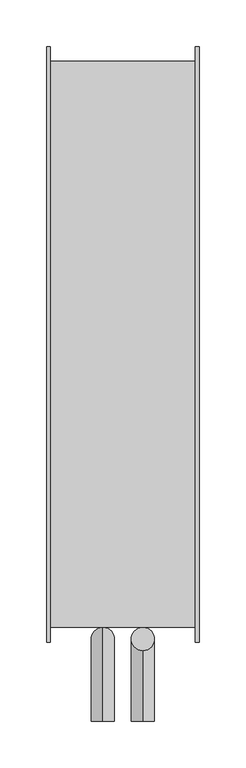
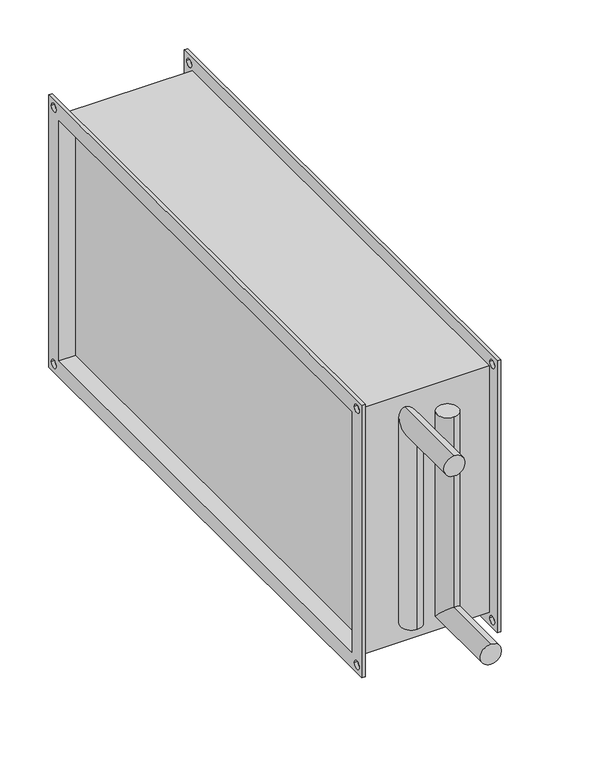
"""IFC4 building model written with IfcOpenShell, lengths in millimetres: proxy geometry, СВ_ВоздухонагревательВодяной_КанальныйПрямоугольный_200-1000_SPH-W : SPH-W-600x300/2."""

import ifcopenshell
import ifcopenshell.guid

model = None  # the IFC model being written
_history = None  # IfcOwnerHistory: only IFC2X3 demands one
_inside = {}  # id of a spatial element -> (the spatial element, [elements in it])
_under = {}  # id of a project, library or spatial element -> (it, [spatial elements below it])
_declared = {}  # id of a project -> (the project, [libraries it declares])
_typed = {}  # id of a type object -> (the type object, [elements of that type])
_made_of = {}  # id of a material, layer set ... -> (it, [elements and type objects made of it])


def new_model(schema):
    """Start an empty IFC model of exactly this schema.

    Asked for "IFC4X3", IfcOpenShell would pick the latest addendum, in which some entities
    have other attributes; the version numbers below select the first issue.
    IFC2X3 requires an IfcOwnerHistory on every rooted entity: one is made here for all.
    """
    global model, _history
    if schema == "IFC4X3":
        model = ifcopenshell.file(schema_version=(4, 3, 0, 0))
    else:
        model = ifcopenshell.file(schema=schema)
    _inside.clear()
    _under.clear()
    _declared.clear()
    _typed.clear()
    _made_of.clear()
    _history = None
    if model.schema == "IFC2X3":
        org = make("IfcOrganization", Name="unknown")
        user = make(
            "IfcPersonAndOrganization",
            ThePerson=make("IfcPerson", FamilyName="unknown"),
            TheOrganization=org,
        )
        app = make(
            "IfcApplication",
            ApplicationDeveloper=org,
            Version="unknown",
            ApplicationFullName="unknown",
            ApplicationIdentifier="unknown",
        )
        _history = make(
            "IfcOwnerHistory",
            OwningUser=user,
            OwningApplication=app,
            ChangeAction="ADDED",
            CreationDate=0,
        )
    return model


def make(cls, **values):
    """One entity of the class cls with the attributes given. An attribute that is None is left unset."""
    return model.create_entity(
        cls, **{name: value for name, value in values.items() if value is not None}
    )


def rooted(cls, **values):
    """An entity with a GlobalId (a new one), such as an element, a storey or a relation."""
    return make(cls, GlobalId=ifcopenshell.guid.new(), OwnerHistory=_history, **values)


def si_unit(unit_type, name, prefix=None):
    """IfcSIUnit, for example si_unit("LENGTHUNIT", "METRE", prefix="MILLI")."""
    return make("IfcSIUnit", UnitType=unit_type, Prefix=prefix, Name=name)


def assignment(units):
    """IfcUnitAssignment: the units of a project."""
    return None if units is None else make("IfcUnitAssignment", Units=units)


def point(xyz):
    """IfcCartesianPoint."""
    return None if xyz is None else make("IfcCartesianPoint", Coordinates=xyz)


def direction(xyz):
    """IfcDirection."""
    return None if xyz is None else make("IfcDirection", DirectionRatios=xyz)


def frame(location, z_axis=None, x_axis=None):
    """IfcAxis2Placement3D, a coordinate frame: its origin and axes. An axis left out is left unset."""
    return make(
        "IfcAxis2Placement3D",
        Location=point(location),
        Axis=direction(z_axis),
        RefDirection=direction(x_axis),
    )


def origin():
    """The frame at (0, 0, 0) with its axes left unset."""
    return frame((0.0, 0.0, 0.0))


def place(relative_to, where):
    """IfcLocalPlacement: puts the frame where relative to a parent placement (None: the world)."""
    return make(
        "IfcLocalPlacement", PlacementRelTo=relative_to, RelativePlacement=where
    )


def context(
    kind, dimensions, precision=None, world=None, true_north=None, identifier=None
):
    """IfcGeometricRepresentationContext, for example the 3D "Model" context."""
    return make(
        "IfcGeometricRepresentationContext",
        ContextIdentifier=identifier,
        ContextType=kind,
        CoordinateSpaceDimension=dimensions,
        Precision=precision,
        WorldCoordinateSystem=world,
        TrueNorth=true_north,
    )


def project(units=None, contexts=None):
    """IfcProject with its units and contexts."""
    return rooted(
        "IfcProject",
        Name="project",
        RepresentationContexts=contexts,
        UnitsInContext=assignment(units),
    )


def spatial(cls, under=None, at=None, **own):
    """A site, building, storey or space (cls), placed at a placement, below another one or the project."""
    s = rooted(cls, ObjectPlacement=at, **own)
    if under is not None:
        _under.setdefault(under.id(), (under, []))[1].append(s)
    return s


def polyline(points):
    """IfcPolyline through the points."""
    return make("IfcPolyline", Points=[point(p) for p in points])


def circle_curve(where, radius):
    """IfcCircle in the frame where."""
    return make("IfcCircle", Position=where, Radius=radius)


def ellipse_curve(where, semi_axis1, semi_axis2):
    """IfcEllipse in the frame where."""
    return make(
        "IfcEllipse", Position=where, SemiAxis1=semi_axis1, SemiAxis2=semi_axis2
    )


def shape(context_of_items, identifier, shape_type, items):
    """IfcShapeRepresentation: the items that make up one representation, for example the "Body"."""
    return make(
        "IfcShapeRepresentation",
        ContextOfItems=context_of_items,
        RepresentationIdentifier=identifier,
        RepresentationType=shape_type,
        Items=items,
    )


def source(mapping_origin, context_of_items, identifier, shape_type, items):
    """IfcRepresentationMap: a shape defined once, which mapped items show again and again."""
    return make(
        "IfcRepresentationMap",
        MappingOrigin=mapping_origin,
        MappedRepresentation=shape(context_of_items, identifier, shape_type, items),
    )


def transform(
    local_origin,
    x_axis=None,
    y_axis=None,
    z_axis=None,
    scale=None,
    scale2=None,
    scale3=None,
    uniform=True,
):
    """IfcCartesianTransformationOperator3D, or its non-uniform kind. x_axis, y_axis, z_axis: its Axis1, 2, 3."""
    if uniform:
        return make(
            "IfcCartesianTransformationOperator3D",
            Axis1=direction(x_axis),
            Axis2=direction(y_axis),
            LocalOrigin=point(local_origin),
            Scale=scale,
            Axis3=direction(z_axis),
        )
    return make(
        "IfcCartesianTransformationOperator3DnonUniform",
        Axis1=direction(x_axis),
        Axis2=direction(y_axis),
        LocalOrigin=point(local_origin),
        Scale=scale,
        Axis3=direction(z_axis),
        Scale2=scale2,
        Scale3=scale3,
    )


def mapped(mapping_source, mapping_target):
    """IfcMappedItem: shows the shape of a source again, moved by a transform."""
    return make(
        "IfcMappedItem", MappingSource=mapping_source, MappingTarget=mapping_target
    )


def made_of(thing, what):
    """Note that an element or type object is made of a material, layer set ...; save() writes the relation."""
    if what is not None:
        _made_of.setdefault(what.id(), (what, []))[1].append(thing)
    return thing


def element(
    cls,
    number,
    at=None,
    inside=None,
    cuts=None,
    type_object=None,
    material=None,
    context=None,
    identifier="Body",
    shape_type=None,
    held_by="IfcProductDefinitionShape",
    body=None,
    shapes=None,
    **own,
):
    """One element of the class cls, such as IfcWall. Its Tag is "e" and its number.

    at: its placement. inside: the storey or other place that contains it. cuts: it is an
    opening in that element (IfcRelVoidsElement). A single representation is given by context,
    identifier, shape_type and body (its items); several are given by shapes. held_by: the class
    of the entity that holds the representations. save() writes the other relations.
    """
    e = rooted(cls, Tag="e%d" % number, ObjectPlacement=at, **own)
    if body is not None:
        shapes = [shape(context, identifier, shape_type, body)]
    if shapes is not None:
        e.Representation = make(held_by, Representations=shapes)
    if inside is not None:
        _inside.setdefault(inside.id(), (inside, []))[1].append(e)
    if cuts is not None:
        rooted(
            "IfcRelVoidsElement", RelatingBuildingElement=cuts, RelatedOpeningElement=e
        )
    if type_object is not None:
        _typed.setdefault(type_object.id(), (type_object, []))[1].append(e)
    return made_of(e, material)


def aggregate(whole, parts):
    """IfcRelAggregates: a whole, such as a stair, and the parts it consists of."""
    return rooted("IfcRelAggregates", RelatingObject=whole, RelatedObjects=parts)


def save(model, path):
    """Write the relations noted so far, then the file.

    IfcRelAggregates (storeys below a building ...), IfcRelContainedInSpatialStructure (elements
    in a storey), IfcRelDefinesByType, IfcRelAssociatesMaterial and IfcRelDeclares: one each for
    every whole, place, type object, material and project.
    """
    for whole, parts in _under.values():
        aggregate(whole, parts)
    for where, things in _inside.values():
        rooted(
            "IfcRelContainedInSpatialStructure",
            RelatedElements=things,
            RelatingStructure=where,
        )
    for kind, things in _typed.values():
        rooted("IfcRelDefinesByType", RelatedObjects=things, RelatingType=kind)
    for what, things in _made_of.values():
        rooted("IfcRelAssociatesMaterial", RelatedObjects=things, RelatingMaterial=what)
    for by, libraries in _declared.values():
        rooted("IfcRelDeclares", RelatingContext=by, RelatedDefinitions=libraries)
    model.write(path)


def plane_surface(at):
    """IfcPlane: the flat surface through the origin of the frame at, square to its z axis."""
    return make("IfcPlane", Position=at)


def cylinder_surface(at, radius):
    """IfcCylindricalSurface: all points at the distance radius from the z axis of the frame at."""
    return make("IfcCylindricalSurface", Position=at, Radius=radius)


def revolved_surface(curve, axis_point, axis_direction):
    """IfcSurfaceOfRevolution: the curve turned about the line through axis_point along axis_direction."""
    return make(
        "IfcSurfaceOfRevolution",
        SweptCurve=make("IfcArbitraryOpenProfileDef", ProfileType="CURVE", Curve=curve),
        AxisPosition=make("IfcAxis1Placement", Location=point(axis_point), Axis=direction(axis_direction)),
    )


def advanced_brep(points, edges, surfaces, faces):
    """IfcAdvancedBrep: a solid bounded by faces that lie on surfaces and meet in shared edges.

    An edge is (start, end): straight between two places in points (the first is 0);
    or (start, end, curve); or (start, end, curve, False) where it runs against its curve.
    A face is (place in surfaces, loops), or (place, loops, False) where it looks against
    its surface's normal. A loop lists edges by number (the first is 1), with a minus sign
    where the edge is run from its end to its start. The first loop is the outer one.
    """
    corners = [point(p) for p in points]
    vertices = [make("IfcVertexPoint", VertexGeometry=c) for c in corners]
    made = []
    for start, end, *more in edges:
        made.append(
            make(
                "IfcEdgeCurve",
                EdgeStart=vertices[start],
                EdgeEnd=vertices[end],
                EdgeGeometry=more[0] if more else make("IfcPolyline", Points=[corners[start], corners[end]]),
                SameSense=more[1] if len(more) > 1 else True,
            )
        )
    hull = []
    for where, loops, *sense in faces:
        bounds = []
        for j, loop in enumerate(loops):
            ring = [make("IfcOrientedEdge", EdgeElement=made[abs(k) - 1], Orientation=k > 0) for k in loop]
            bounds.append(
                make(
                    "IfcFaceOuterBound" if j == 0 else "IfcFaceBound",
                    Bound=make("IfcEdgeLoop", EdgeList=ring),
                    Orientation=True,
                )
            )
        hull.append(make("IfcAdvancedFace", Bounds=bounds, FaceSurface=surfaces[where], SameSense=sense[0] if sense else True))
    return make("IfcAdvancedBrep", Outer=make("IfcClosedShell", CfsFaces=hull))


def mechanical_equipment_13836d59(model_context):
    return source(origin(), model_context, "Body", "AdvancedBrep", [
        advanced_brep(
        [(21.5, -304.0, 125.0), (21.5, -329.0, 125.0), (21.5, -304.0, -137.5), (21.5, -329.0, -112.5), (21.5, -405.0, -137.5), (21.5, -405.0, -112.5)],
        [
            (0, 1, circle_curve(frame((21.5, -316.5, 125.0), z_axis=(0.0, 0.0, 1.0), x_axis=(0.0, -1.0, 0.0)), 12.5)),
            (1, 0, circle_curve(frame((21.5, -316.5, 125.0), z_axis=(0.0, 0.0, 1.0), x_axis=(0.0, -1.0, 0.0)), 12.5)),
            (0, 2),
            (2, 3, ellipse_curve(frame((21.5, -316.5, -125.0), z_axis=(0.0, 0.7071067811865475, 0.7071067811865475), x_axis=(0.0, -0.7071067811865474, 0.7071067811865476)), 17.6776695, 12.5)),
            (3, 1),
            (3, 2, ellipse_curve(frame((21.5, -316.5, -125.0), z_axis=(0.0, 0.7071067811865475, 0.7071067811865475), x_axis=(0.0, -0.7071067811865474, 0.7071067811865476)), 17.6776695, 12.5)),
            (4, 5, circle_curve(frame((21.5, -405.0, -125.0), z_axis=(0.0, -1.0, 0.0), x_axis=(0.0, 0.0, 1.0)), 12.5)),
            (5, 4, circle_curve(frame((21.5, -405.0, -125.0), z_axis=(0.0, -1.0, 0.0), x_axis=(0.0, 0.0, 1.0)), 12.5)),
            (2, 4),
            (5, 3),
        ],
        [
            plane_surface(frame((21.5, -316.5, 125.0), z_axis=(0.0, 0.0, 1.0), x_axis=(-1.0, 0.0, 0.0))),
            cylinder_surface(frame((21.5, -316.5, 125.0), z_axis=(0.0, 0.0, 1.0), x_axis=(0.0, -1.0, 0.0)), 12.5),
            plane_surface(frame((21.5, -405.0, -125.0), z_axis=(0.0, -1.0, 0.0), x_axis=(-1.0, 0.0, 0.0))),
            cylinder_surface(frame((21.5, -316.5, -125.0), z_axis=(0.0, 1.0, 0.0), x_axis=(0.0, 0.0, 1.0)), 12.5),
        ],
        [
            (0, [[1, 2]]),
            (1, [[-1, 3, 4, 5]]),
            (1, [[-2, -5, 6, -3]]),
            (2, [[7, 8]]),
            (3, [[-4, 9, -8, 10]]),
            (3, [[-6, -10, -7, -9]]),
        ],
    ),
        advanced_brep(
        [(-21.5, -304.0, -125.0), (-21.5, -329.0, -125.0), (-21.5, -304.0, 137.5), (-21.5, -329.0, 112.5), (-21.5, -405.0, 137.5), (-21.5, -405.0, 112.5)],
        [
            (0, 1, circle_curve(frame((-21.5, -316.5, -125.0), z_axis=(0.0, 0.0, -1.0), x_axis=(0.0, -1.0, 0.0)), 12.5)),
            (1, 0, circle_curve(frame((-21.5, -316.5, -125.0), z_axis=(0.0, 0.0, -1.0), x_axis=(0.0, -1.0, 0.0)), 12.5)),
            (0, 2),
            (2, 3, ellipse_curve(frame((-21.5, -316.5, 125.0), z_axis=(0.0, 0.7071067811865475, -0.7071067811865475), x_axis=(0.0, -0.7071067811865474, -0.7071067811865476)), 17.6776695, 12.5)),
            (3, 1),
            (3, 2, ellipse_curve(frame((-21.5, -316.5, 125.0), z_axis=(0.0, 0.7071067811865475, -0.7071067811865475), x_axis=(0.0, -0.7071067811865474, -0.7071067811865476)), 17.6776695, 12.5)),
            (4, 5, circle_curve(frame((-21.5, -405.0, 125.0), z_axis=(0.0, -1.0, 0.0), x_axis=(0.0, 0.0, -1.0)), 12.5)),
            (5, 4, circle_curve(frame((-21.5, -405.0, 125.0), z_axis=(0.0, -1.0, 0.0), x_axis=(0.0, 0.0, -1.0)), 12.5)),
            (2, 4),
            (5, 3),
        ],
        [
            plane_surface(frame((-21.5, -316.5, -125.0), z_axis=(0.0, 0.0, -1.0), x_axis=(1.0, 0.0, 0.0))),
            cylinder_surface(frame((-21.5, -316.5, -125.0), z_axis=(0.0, 0.0, -1.0), x_axis=(0.0, -1.0, 0.0)), 12.5),
            plane_surface(frame((-21.5, -405.0, 125.0), z_axis=(0.0, -1.0, 0.0), x_axis=(1.0, 0.0, 0.0))),
            cylinder_surface(frame((-21.5, -316.5, 125.0), z_axis=(0.0, 1.0, 0.0), x_axis=(0.0, 0.0, -1.0)), 12.5),
        ],
        [
            (0, [[1, 2]]),
            (1, [[-1, 3, 4, 5]]),
            (1, [[-2, -5, 6, -3]]),
            (2, [[7, 8]]),
            (3, [[-4, 9, -8, 10]]),
            (3, [[-6, -10, -7, -9]]),
        ],
    ),
        advanced_brep(
        [(-78.0, -304.0, 154.0), (-78.0, -304.0, -154.0), (78.0, -304.0, -154.0), (78.0, -304.0, 154.0), (-78.0, 304.0, -154.0), (78.0, 304.0, -154.0), (-78.0, 304.0, 154.0), (78.0, 304.0, 154.0), (62.0, 300.0, -150.0), (62.0, 300.0, 150.0), (62.0, -300.0, 150.0), (62.0, -300.0, -150.0), (-62.0, -300.0, 150.0), (-62.0, 300.0, 150.0), (-62.0, 300.0, -150.0), (-62.0, -300.0, -150.0), (-82.0, -320.0, 170.0), (-82.0, 320.0, 170.0), (-82.0, 320.0, -170.0), (-82.0, -320.0, -170.0), (-82.0, -300.0, 150.0), (-82.0, -300.0, -150.0), (-82.0, 300.0, -150.0), (-82.0, 300.0, 150.0), (-82.0, 305.0, 160.0), (-82.0, 315.0, 160.0), (-82.0, -315.0, 160.0), (-82.0, -305.0, 160.0), (-82.0, -315.0, -160.0), (-82.0, -305.0, -160.0), (-82.0, 305.0, -160.0), (-82.0, 315.0, -160.0), (-78.0, -320.0, 170.0), (-78.0, -320.0, -170.0), (-78.0, 320.0, -170.0), (-78.0, 320.0, 170.0), (-78.0, 315.0, 160.0), (-78.0, 305.0, 160.0), (-78.0, -305.0, 160.0), (-78.0, -315.0, 160.0), (-78.0, -305.0, -160.0), (-78.0, -315.0, -160.0), (-78.0, 315.0, -160.0), (-78.0, 305.0, -160.0), (78.0, 320.0, 170.0), (78.0, 320.0, -170.0), (78.0, -320.0, -170.0), (78.0, -320.0, 170.0), (78.0, 305.0, 160.0), (78.0, 315.0, 160.0), (78.0, -315.0, 160.0), (78.0, -305.0, 160.0), (78.0, -315.0, -160.0), (78.0, -305.0, -160.0), (78.0, 305.0, -160.0), (78.0, 315.0, -160.0), (82.0, 320.0, 170.0), (82.0, -320.0, 170.0), (82.0, -320.0, -170.0), (82.0, 320.0, -170.0), (82.0, 300.0, 150.0), (82.0, 300.0, -150.0), (82.0, -300.0, -150.0), (82.0, -300.0, 150.0), (82.0, 315.0, 160.0), (82.0, 305.0, 160.0), (82.0, -305.0, 160.0), (82.0, -315.0, 160.0), (82.0, -305.0, -160.0), (82.0, -315.0, -160.0), (82.0, 315.0, -160.0), (82.0, 305.0, -160.0)],
        [
            (0, 1),
            (1, 2),
            (2, 3),
            (3, 0),
            (1, 4),
            (4, 5),
            (5, 2),
            (4, 6),
            (6, 7),
            (7, 5),
            (6, 0),
            (3, 7),
            (8, 9),
            (9, 10),
            (10, 11),
            (11, 8),
            (12, 13),
            (13, 14),
            (14, 15),
            (15, 12),
            (16, 17),
            (17, 18),
            (18, 19),
            (19, 16),
            (20, 21),
            (21, 22),
            (22, 23),
            (23, 20),
            (24, 25, circle_curve(frame((-82.0, 310.0, 160.0), z_axis=(1.0, 0.0, 0.0), x_axis=(0.0, -1.0, 0.0)), 5.0)),
            (25, 24, circle_curve(frame((-82.0, 310.0, 160.0), z_axis=(1.0, 0.0, 0.0), x_axis=(0.0, -1.0, 0.0)), 5.0)),
            (26, 27, circle_curve(frame((-82.0, -310.0, 160.0), z_axis=(1.0, 0.0, 0.0), x_axis=(0.0, -1.0, 0.0)), 5.0)),
            (27, 26, circle_curve(frame((-82.0, -310.0, 160.0), z_axis=(1.0, 0.0, 0.0), x_axis=(0.0, -1.0, 0.0)), 5.0)),
            (28, 29, circle_curve(frame((-82.0, -310.0, -160.0), z_axis=(1.0, 0.0, 0.0), x_axis=(0.0, -1.0, 0.0)), 5.0)),
            (29, 28, circle_curve(frame((-82.0, -310.0, -160.0), z_axis=(1.0, 0.0, 0.0), x_axis=(0.0, -1.0, 0.0)), 5.0)),
            (30, 31, circle_curve(frame((-82.0, 310.0, -160.0), z_axis=(1.0, 0.0, 0.0), x_axis=(0.0, -1.0, 0.0)), 5.0)),
            (31, 30, circle_curve(frame((-82.0, 310.0, -160.0), z_axis=(1.0, 0.0, 0.0), x_axis=(0.0, -1.0, 0.0)), 5.0)),
            (32, 33),
            (33, 34),
            (34, 35),
            (35, 32),
            (36, 37, circle_curve(frame((-78.0, 310.0, 160.0), z_axis=(-1.0, 0.0, 0.0), x_axis=(0.0, -1.0, 0.0)), 5.0)),
            (37, 36, circle_curve(frame((-78.0, 310.0, 160.0), z_axis=(-1.0, 0.0, 0.0), x_axis=(0.0, -1.0, 0.0)), 5.0)),
            (38, 39, circle_curve(frame((-78.0, -310.0, 160.0), z_axis=(-1.0, 0.0, 0.0), x_axis=(0.0, -1.0, 0.0)), 5.0)),
            (39, 38, circle_curve(frame((-78.0, -310.0, 160.0), z_axis=(-1.0, 0.0, 0.0), x_axis=(0.0, -1.0, 0.0)), 5.0)),
            (40, 41, circle_curve(frame((-78.0, -310.0, -160.0), z_axis=(-1.0, 0.0, 0.0), x_axis=(0.0, -1.0, 0.0)), 5.0)),
            (41, 40, circle_curve(frame((-78.0, -310.0, -160.0), z_axis=(-1.0, 0.0, 0.0), x_axis=(0.0, -1.0, 0.0)), 5.0)),
            (42, 43, circle_curve(frame((-78.0, 310.0, -160.0), z_axis=(-1.0, 0.0, 0.0), x_axis=(0.0, -1.0, 0.0)), 5.0)),
            (43, 42, circle_curve(frame((-78.0, 310.0, -160.0), z_axis=(-1.0, 0.0, 0.0), x_axis=(0.0, -1.0, 0.0)), 5.0)),
            (19, 33),
            (32, 16),
            (18, 34),
            (17, 35),
            (44, 45),
            (45, 46),
            (46, 47),
            (47, 44),
            (48, 49, circle_curve(frame((78.0, 310.0, 160.0), z_axis=(1.0, 0.0, 0.0), x_axis=(0.0, -1.0, 0.0)), 5.0)),
            (49, 48, circle_curve(frame((78.0, 310.0, 160.0), z_axis=(1.0, 0.0, 0.0), x_axis=(0.0, -1.0, 0.0)), 5.0)),
            (50, 51, circle_curve(frame((78.0, -310.0, 160.0), z_axis=(1.0, 0.0, 0.0), x_axis=(0.0, -1.0, 0.0)), 5.0)),
            (51, 50, circle_curve(frame((78.0, -310.0, 160.0), z_axis=(1.0, 0.0, 0.0), x_axis=(0.0, -1.0, 0.0)), 5.0)),
            (52, 53, circle_curve(frame((78.0, -310.0, -160.0), z_axis=(1.0, 0.0, 0.0), x_axis=(0.0, -1.0, 0.0)), 5.0)),
            (53, 52, circle_curve(frame((78.0, -310.0, -160.0), z_axis=(1.0, 0.0, 0.0), x_axis=(0.0, -1.0, 0.0)), 5.0)),
            (54, 55, circle_curve(frame((78.0, 310.0, -160.0), z_axis=(1.0, 0.0, 0.0), x_axis=(0.0, -1.0, 0.0)), 5.0)),
            (55, 54, circle_curve(frame((78.0, 310.0, -160.0), z_axis=(1.0, 0.0, 0.0), x_axis=(0.0, -1.0, 0.0)), 5.0)),
            (56, 57),
            (57, 58),
            (58, 59),
            (59, 56),
            (60, 61),
            (61, 62),
            (62, 63),
            (63, 60),
            (64, 65, circle_curve(frame((82.0, 310.0, 160.0), z_axis=(-1.0, 0.0, 0.0), x_axis=(0.0, -1.0, 0.0)), 5.0)),
            (65, 64, circle_curve(frame((82.0, 310.0, 160.0), z_axis=(-1.0, 0.0, 0.0), x_axis=(0.0, -1.0, 0.0)), 5.0)),
            (66, 67, circle_curve(frame((82.0, -310.0, 160.0), z_axis=(-1.0, 0.0, 0.0), x_axis=(0.0, -1.0, 0.0)), 5.0)),
            (67, 66, circle_curve(frame((82.0, -310.0, 160.0), z_axis=(-1.0, 0.0, 0.0), x_axis=(0.0, -1.0, 0.0)), 5.0)),
            (68, 69, circle_curve(frame((82.0, -310.0, -160.0), z_axis=(-1.0, 0.0, 0.0), x_axis=(0.0, -1.0, 0.0)), 5.0)),
            (69, 68, circle_curve(frame((82.0, -310.0, -160.0), z_axis=(-1.0, 0.0, 0.0), x_axis=(0.0, -1.0, 0.0)), 5.0)),
            (70, 71, circle_curve(frame((82.0, 310.0, -160.0), z_axis=(-1.0, 0.0, 0.0), x_axis=(0.0, -1.0, 0.0)), 5.0)),
            (71, 70, circle_curve(frame((82.0, 310.0, -160.0), z_axis=(-1.0, 0.0, 0.0), x_axis=(0.0, -1.0, 0.0)), 5.0)),
            (47, 57),
            (56, 44),
            (46, 58),
            (45, 59),
            (23, 13),
            (12, 20),
            (22, 14),
            (21, 15),
            (60, 9),
            (8, 61),
            (11, 62),
            (10, 63),
            (36, 25),
            (24, 37),
            (64, 49),
            (48, 65),
            (38, 27),
            (26, 39),
            (66, 51),
            (50, 67),
            (40, 29),
            (28, 41),
            (68, 53),
            (52, 69),
            (42, 31),
            (30, 43),
            (70, 55),
            (54, 71),
        ],
        [
            plane_surface(frame((-62.0, -304.0, 154.0), z_axis=(0.0, -1.0, 0.0), x_axis=(-1.0, 0.0, 0.0))),
            plane_surface(frame((-62.0, -304.0, -154.0), z_axis=(0.0, 0.0, -1.0), x_axis=(-1.0, 0.0, 0.0))),
            plane_surface(frame((-62.0, 304.0, -154.0), z_axis=(0.0, 1.0, 0.0), x_axis=(-1.0, 0.0, 0.0))),
            plane_surface(frame((-62.0, 304.0, 154.0), z_axis=(0.0, 0.0, 1.0), x_axis=(-1.0, 0.0, 0.0))),
            plane_surface(frame((62.0, -304.0, 154.0), z_axis=(1.0, 0.0, 0.0), x_axis=(0.0, 0.0, -1.0))),
            plane_surface(frame((-62.0, -304.0, 154.0), z_axis=(-1.0, 0.0, 0.0), x_axis=(0.0, 0.0, 1.0))),
            plane_surface(frame((-82.0, -320.0, 170.0), z_axis=(-1.0, 0.0, 0.0), x_axis=(0.0, 0.0, 1.0))),
            plane_surface(frame((-78.0, -320.0, 170.0), z_axis=(1.0, 0.0, 0.0), x_axis=(0.0, 0.0, -1.0))),
            plane_surface(frame((-78.0, -320.0, 170.0), z_axis=(0.0, -1.0, 0.0), x_axis=(-1.0, 0.0, 0.0))),
            plane_surface(frame((-78.0, -320.0, -170.0), z_axis=(0.0, 0.0, -1.0), x_axis=(-1.0, 0.0, 0.0))),
            plane_surface(frame((-78.0, 320.0, -170.0), z_axis=(0.0, 1.0, 0.0), x_axis=(-1.0, 0.0, 0.0))),
            plane_surface(frame((-78.0, 320.0, 170.0), z_axis=(0.0, 0.0, 1.0), x_axis=(-1.0, 0.0, 0.0))),
            plane_surface(frame((78.0, 300.0, -150.0), z_axis=(-1.0, 0.0, 0.0), x_axis=(0.0, 0.0, 1.0))),
            plane_surface(frame((82.0, 300.0, -150.0), z_axis=(1.0, 0.0, 0.0), x_axis=(0.0, 0.0, -1.0))),
            plane_surface(frame((82.0, 320.0, 170.0), z_axis=(0.0, 0.0, 1.0), x_axis=(-1.0, 0.0, 0.0))),
            plane_surface(frame((82.0, -320.0, 170.0), z_axis=(0.0, -1.0, 0.0), x_axis=(-1.0, 0.0, 0.0))),
            plane_surface(frame((82.0, -320.0, -170.0), z_axis=(0.0, 0.0, -1.0), x_axis=(-1.0, 0.0, 0.0))),
            plane_surface(frame((82.0, 320.0, -170.0), z_axis=(0.0, 1.0, 0.0), x_axis=(-1.0, 0.0, 0.0))),
            plane_surface(frame((-78.0, -300.0, 150.0), z_axis=(0.0, 0.0, -1.0), x_axis=(-1.0, 0.0, 0.0))),
            plane_surface(frame((-78.0, 300.0, 150.0), z_axis=(0.0, -1.0, 0.0), x_axis=(-1.0, 0.0, 0.0))),
            plane_surface(frame((-78.0, 300.0, -150.0), z_axis=(0.0, 0.0, 1.0), x_axis=(-1.0, 0.0, 0.0))),
            plane_surface(frame((-78.0, -300.0, -150.0), z_axis=(0.0, 1.0, 0.0), x_axis=(-1.0, 0.0, 0.0))),
            plane_surface(frame((82.0, 300.0, 150.0), z_axis=(0.0, -1.0, 0.0), x_axis=(-1.0, 0.0, 0.0))),
            plane_surface(frame((82.0, 300.0, -150.0), z_axis=(0.0, 0.0, 1.0), x_axis=(-1.0, 0.0, 0.0))),
            plane_surface(frame((82.0, -300.0, -150.0), z_axis=(0.0, 1.0, 0.0), x_axis=(-1.0, 0.0, 0.0))),
            plane_surface(frame((82.0, -300.0, 150.0), z_axis=(0.0, 0.0, -1.0), x_axis=(-1.0, 0.0, 0.0))),
            revolved_surface(polyline([(-82.0, 305.0, 160.0), (-78.0, 305.0, 160.0)]), (82.0, 310.0, 160.0), (-1.0, 0.0, 0.0)),
            revolved_surface(polyline([(78.0, 305.0, 160.0), (82.0, 305.0, 160.0)]), (82.0, 310.0, 160.0), (-1.0, 0.0, 0.0)),
            revolved_surface(polyline([(-82.0, -315.0, 160.0), (-78.0, -315.0, 160.0)]), (21.5, -310.0, 160.0), (-1.0, 0.0, 0.0)),
            revolved_surface(polyline([(78.0, -315.0, 160.0), (82.0, -315.0, 160.0)]), (21.5, -310.0, 160.0), (-1.0, 0.0, 0.0)),
            revolved_surface(polyline([(-82.0, -315.0, -160.0), (-78.0, -315.0, -160.0)]), (21.5, -310.0, -160.0), (-1.0, 0.0, 0.0)),
            revolved_surface(polyline([(78.0, -315.0, -160.0), (82.0, -315.0, -160.0)]), (21.5, -310.0, -160.0), (-1.0, 0.0, 0.0)),
            revolved_surface(polyline([(-82.0, 305.0, -160.0), (-78.0, 305.0, -160.0)]), (21.5, 310.0, -160.0), (-1.0, 0.0, 0.0)),
            revolved_surface(polyline([(78.0, 305.0, -160.0), (82.0, 305.0, -160.0)]), (21.5, 310.0, -160.0), (-1.0, 0.0, 0.0)),
        ],
        [
            (0, [[1, 2, 3, 4]]),
            (1, [[-2, 5, 6, 7]]),
            (2, [[-6, 8, 9, 10]]),
            (3, [[-9, 11, -4, 12]]),
            (4, [[13, 14, 15, 16]]),
            (5, [[17, 18, 19, 20]]),
            (6, [[21, 22, 23, 24], [25, 26, 27, 28], [29, 30], [31, 32], [33, 34], [35, 36]]),
            (7, [[37, 38, 39, 40], [-1, -11, -8, -5], [41, 42], [43, 44], [45, 46], [47, 48]]),
            (8, [[-24, 49, -37, 50]]),
            (9, [[-23, 51, -38, -49]]),
            (10, [[-22, 52, -39, -51]]),
            (11, [[-21, -50, -40, -52]]),
            (12, [[53, 54, 55, 56], [-3, -7, -10, -12], [57, 58], [59, 60], [61, 62], [63, 64]]),
            (13, [[65, 66, 67, 68], [69, 70, 71, 72], [73, 74], [75, 76], [77, 78], [79, 80]]),
            (14, [[-56, 81, -65, 82]]),
            (15, [[-55, 83, -66, -81]]),
            (16, [[-54, 84, -67, -83]]),
            (17, [[-53, -82, -68, -84]]),
            (18, [[-28, 85, -17, 86]]),
            (19, [[-27, 87, -18, -85]]),
            (20, [[-26, 88, -19, -87]]),
            (21, [[-25, -86, -20, -88]]),
            (22, [[-69, 89, -13, 90]]),
            (23, [[-70, -90, -16, 91]]),
            (24, [[-71, -91, -15, 92]]),
            (25, [[-89, -72, -92, -14]]),
            (26, [[93, -29, 94, -41]]),
            (27, [[95, -57, 96, -73]]),
            (26, [[-93, -42, -94, -30]]),
            (27, [[-95, -74, -96, -58]]),
            (28, [[97, -31, 98, -43]]),
            (29, [[99, -59, 100, -75]]),
            (28, [[-97, -44, -98, -32]]),
            (29, [[-99, -76, -100, -60]]),
            (30, [[101, -33, 102, -45]]),
            (31, [[103, -61, 104, -77]]),
            (30, [[-101, -46, -102, -34]]),
            (31, [[-103, -78, -104, -62]]),
            (32, [[105, -35, 106, -47]]),
            (33, [[107, -63, 108, -79]]),
            (32, [[-105, -48, -106, -36]]),
            (33, [[-107, -80, -108, -64]]),
        ],
    ),
    ])


if __name__ == "__main__":
    model = new_model("IFC4")
    model_context = context("Model", 3, world=origin())
    ifc_project = project(units=[si_unit("LENGTHUNIT", "METRE", prefix="MILLI")], contexts=[model_context])
    site = spatial("IfcSite", under=ifc_project)
    building = spatial("IfcBuilding", under=site)
    placement = place(None, origin())
    mechanical_equipment_shape = mechanical_equipment_13836d59(model_context)
    element("IfcBuildingElementProxy", 1, Name="СВ_ВоздухонагревательВодяной_КанальныйПрямоугольный_200-1000_SPH-W : SPH-W-600x300/2", ObjectType="СВ_ВоздухонагревательВодяной_КанальныйПрямоугольный_200-1000_SPH-W : SPH-W-600x300/2", at=placement, inside=building, context=model_context, shape_type="MappedRepresentation", body=[
        mapped(mechanical_equipment_shape, transform((0.0, 0.0, 0.0), x_axis=(1.0, 0.0, 0.0), y_axis=(0.0, 1.0, 0.0), z_axis=(0.0, 0.0, 1.0))),
    ])
    save(model, "model.ifc")
